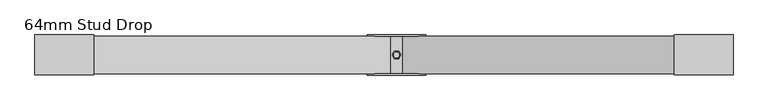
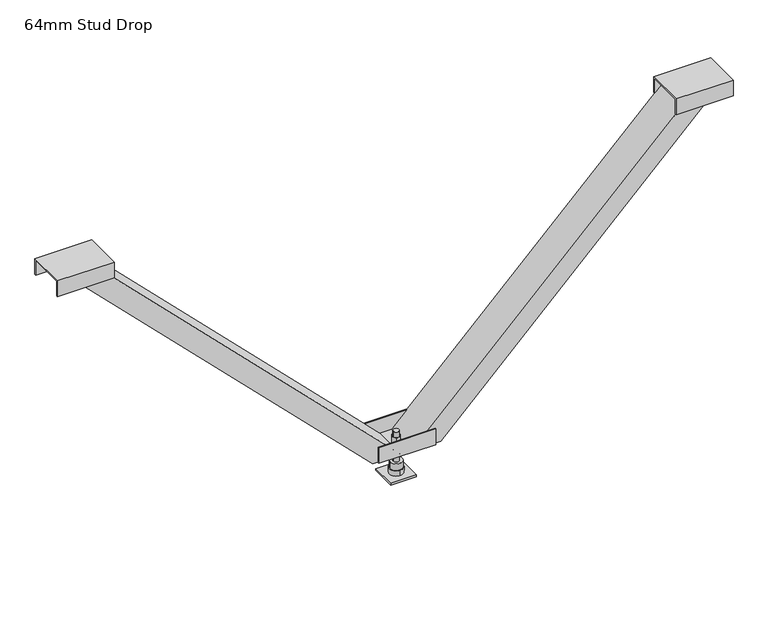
"""IFC4 building model written with IfcOpenShell, lengths in millimetres: beam geometry, Vertibrace U-Channel  Brace : 64mm Stud Drop."""

from ifc_helpers import new_model, si_unit, frame, origin, origin_with_axes, place, context, project, spatial, polyline, circle_curve, outline, extrude, faceted_brep, source, transform, mapped, element, save
from ifc_brep_helpers import plane_surface, cylinder_surface, advanced_brep


def beam_64mm_stud_drop_664ceee9(model_context):
    return source(origin(), model_context, "Body", "SolidModel", [
        extrude(outline(polyline([(34.0, 550.0), (34.0, 520.9584251), (32.0, 520.9584251), (32.0, 548.0), (-32.0, 548.0), (-32.0, 520.9584251), (-34.0, 520.9584251), (-34.0, 550.0), (34.0, 550.0)])), frame((471.3, 0.0, 0.0), z_axis=(1.0, 0.0, 0.0), x_axis=(0.0, 1.0, 0.0)), (0.0, 0.0, 1.0), 100.0),
        extrude(outline(polyline([(34.0, 592.5287582), (34.0, 563.4871833), (32.0, 563.4871833), (32.0, 590.5287582), (-32.0, 590.5287582), (-32.0, 563.4871833), (-34.0, 563.4871833), (-34.0, 592.5287582), (34.0, 592.5287582)])), frame((-613.8287582, 0.0, 0.0), z_axis=(1.0, 0.0, 0.0), x_axis=(0.0, 1.0, 0.0)), (0.0, 0.0, 1.0), 100.0),
        extrude(outline(polyline([(-34.0, 56.7), (-34.0, 85.7415749), (-32.0, 85.7415749), (-32.0, 58.7), (32.0, 58.7), (32.0, 85.7415749), (34.0, 85.7415749), (34.0, 56.7), (-34.0, 56.7)])), frame((-50.0, 0.0, 0.0), z_axis=(1.0, 0.0, 0.0), x_axis=(0.0, 1.0, 0.0)), (0.0, 0.0, 1.0), 100.0),
        extrude(outline(polyline([(22.5, 22.5), (22.5, -22.5), (-22.5, -22.5), (-22.5, 22.5), (22.5, 22.5)])), origin_with_axes(), (0.0, 0.0, 1.0), 3.0),
        advanced_brep(
        [(-5.0, 0.0, -10.0), (5.0, 0.0, -10.0), (-5.0, 0.0, 80.0), (5.0, 0.0, 80.0), (5.0, 0.0, 3.0), (-5.0, 0.0, 3.0), (-5.0, 0.0, 70.4), (5.0, 0.0, 70.4), (-5.0, 0.0, 25.0), (5.0, 0.0, 25.0), (5.0, 0.0, 50.0), (-5.0, 0.0, 50.0), (5.0, 0.0, 58.7), (-5.0, 0.0, 58.7), (-5.0, 0.0, 56.7), (5.0, 0.0, 56.7), (-10.5, 0.0, 25.0), (10.5, 0.0, 25.0), (-10.5, 0.0, 13.0), (10.5, 0.0, 13.0), (0.0, -12.0, 13.0), (0.0, 12.0, 13.0), (3.75, 6.4951905, 70.4), (-3.75, 6.4951905, 70.4), (-7.5, 0.0, 70.4), (-3.75, -6.4951905, 70.4), (3.75, -6.4951905, 70.4), (7.5, 0.0, 70.4), (3.75, 6.4951905, 58.7), (7.5, 0.0, 58.7), (3.75, -6.4951905, 58.7), (-3.75, -6.4951905, 58.7), (-7.5, 0.0, 58.7), (-3.75, 6.4951905, 58.7), (-10.9696551, 0.0, 56.7), (-5.4848276, -9.5, 56.7), (5.4848276, -9.5, 56.7), (10.9696551, 0.0, 56.7), (5.4848276, 9.5, 56.7), (-5.4848276, 9.5, 56.7), (-10.9696551, 0.0, 50.0), (-5.4848276, 9.5, 50.0), (5.4848276, 9.5, 50.0), (10.9696551, 0.0, 50.0), (5.4848276, -9.5, 50.0), (-5.4848276, -9.5, 50.0), (0.0, -12.0, 3.0), (0.0, 12.0, 3.0)],
        [
            (0, 1, circle_curve(frame((0.0, 0.0, -10.0), z_axis=(0.0, 0.0, -1.0), x_axis=(1.0, 0.0, 0.0)), 5.0)),
            (1, 0, circle_curve(frame((0.0, 0.0, -10.0), z_axis=(0.0, 0.0, -1.0), x_axis=(1.0, 0.0, 0.0)), 5.0)),
            (2, 3, circle_curve(frame((0.0, 0.0, 80.0), z_axis=(0.0, 0.0, 1.0), x_axis=(1.0, 0.0, 0.0)), 5.0)),
            (3, 2, circle_curve(frame((0.0, 0.0, 80.0), z_axis=(0.0, 0.0, 1.0), x_axis=(1.0, 0.0, 0.0)), 5.0)),
            (1, 4),
            (4, 5, circle_curve(frame((0.0, 0.0, 3.0), z_axis=(0.0, 0.0, -1.0), x_axis=(1.0, 0.0, 0.0)), 5.0)),
            (5, 0),
            (2, 6),
            (6, 7, circle_curve(frame((0.0, 0.0, 70.4), z_axis=(0.0, 0.0, 1.0), x_axis=(1.0, 0.0, 0.0)), 5.0)),
            (7, 3),
            (8, 9, circle_curve(frame((0.0, 0.0, 25.0), z_axis=(0.0, 0.0, 1.0), x_axis=(1.0, 0.0, 0.0)), 5.0)),
            (9, 10),
            (10, 11, circle_curve(frame((0.0, 0.0, 50.0), z_axis=(0.0, 0.0, -1.0), x_axis=(1.0, 0.0, 0.0)), 5.0)),
            (11, 8),
            (12, 13, circle_curve(frame((0.0, 0.0, 58.7), z_axis=(0.0, 0.0, -1.0), x_axis=(1.0, 0.0, 0.0)), 5.0)),
            (13, 14),
            (14, 15, circle_curve(frame((0.0, 0.0, 56.7), z_axis=(0.0, 0.0, 1.0), x_axis=(1.0, 0.0, 0.0)), 5.0)),
            (15, 12),
            (5, 4, circle_curve(frame((0.0, 0.0, 3.0), z_axis=(0.0, 0.0, -1.0), x_axis=(1.0, 0.0, 0.0)), 5.0)),
            (7, 6, circle_curve(frame((0.0, 0.0, 70.4), z_axis=(0.0, 0.0, 1.0), x_axis=(1.0, 0.0, 0.0)), 5.0)),
            (9, 8, circle_curve(frame((0.0, 0.0, 25.0), z_axis=(0.0, 0.0, 1.0), x_axis=(1.0, 0.0, 0.0)), 5.0)),
            (11, 10, circle_curve(frame((0.0, 0.0, 50.0), z_axis=(0.0, 0.0, -1.0), x_axis=(1.0, 0.0, 0.0)), 5.0)),
            (13, 12, circle_curve(frame((0.0, 0.0, 58.7), z_axis=(0.0, 0.0, -1.0), x_axis=(1.0, 0.0, 0.0)), 5.0)),
            (15, 14, circle_curve(frame((0.0, 0.0, 56.7), z_axis=(0.0, 0.0, 1.0), x_axis=(1.0, 0.0, 0.0)), 5.0)),
            (16, 17, circle_curve(frame((0.0, 0.0, 25.0), z_axis=(0.0, 0.0, 1.0), x_axis=(1.0, 0.0, 0.0)), 10.5)),
            (17, 16, circle_curve(frame((0.0, 0.0, 25.0), z_axis=(0.0, 0.0, 1.0), x_axis=(1.0, 0.0, 0.0)), 10.5)),
            (16, 18),
            (18, 19, circle_curve(frame((0.0, 0.0, 13.0), z_axis=(0.0, 0.0, 1.0), x_axis=(1.0, 0.0, 0.0)), 10.5)),
            (19, 17),
            (19, 18, circle_curve(frame((0.0, 0.0, 13.0), z_axis=(0.0, 0.0, 1.0), x_axis=(1.0, 0.0, 0.0)), 10.5)),
            (20, 21, circle_curve(frame((0.0, 0.0, 13.0), z_axis=(0.0, 0.0, 1.0), x_axis=(0.0, 1.0, 0.0)), 12.0)),
            (21, 20, circle_curve(frame((0.0, 0.0, 13.0), z_axis=(0.0, 0.0, 1.0), x_axis=(0.0, 1.0, 0.0)), 12.0)),
            (22, 23),
            (23, 24),
            (24, 25),
            (25, 26),
            (26, 27),
            (27, 22),
            (28, 29),
            (29, 30),
            (30, 31),
            (31, 32),
            (32, 33),
            (33, 28),
            (22, 28),
            (33, 23),
            (32, 24),
            (31, 25),
            (30, 26),
            (29, 27),
            (34, 35),
            (35, 36),
            (36, 37),
            (37, 38),
            (38, 39),
            (39, 34),
            (40, 41),
            (41, 42),
            (42, 43),
            (43, 44),
            (44, 45),
            (45, 40),
            (34, 40),
            (45, 35),
            (44, 36),
            (43, 37),
            (42, 38),
            (41, 39),
            (46, 47, circle_curve(frame((0.0, 0.0, 3.0), z_axis=(0.0, 0.0, -1.0), x_axis=(0.0, 1.0, 0.0)), 12.0)),
            (47, 46, circle_curve(frame((0.0, 0.0, 3.0), z_axis=(0.0, 0.0, -1.0), x_axis=(0.0, 1.0, 0.0)), 12.0)),
            (47, 21),
            (20, 46),
        ],
        [
            plane_surface(frame((5.0, 0.0, -10.0), z_axis=(0.0, 0.0, -1.0), x_axis=(0.0, -1.0, 0.0))),
            plane_surface(frame((5.0, 0.0, 80.0), z_axis=(0.0, 0.0, 1.0), x_axis=(0.0, 1.0, 0.0))),
            cylinder_surface(frame((0.0, 0.0, -10.0), z_axis=(0.0, 0.0, 1.0), x_axis=(1.0, 0.0, 0.0)), 5.0),
            plane_surface(frame((10.5, 0.0, 25.0), z_axis=(0.0, 0.0, 1.0), x_axis=(0.0, 1.0, 0.0))),
            cylinder_surface(frame((0.0, 0.0, 13.0), z_axis=(0.0, 0.0, 1.0), x_axis=(1.0, 0.0, 0.0)), 10.5),
            plane_surface(frame((0.0, 12.0, 13.0), z_axis=(0.0, 0.0, 1.0), x_axis=(-1.0, 0.0, 0.0))),
            plane_surface(frame((3.75, 6.4951905, 70.4), z_axis=(0.0, 0.0, 1.0), x_axis=(-1.0, 0.0, 0.0))),
            plane_surface(frame((3.75, 6.4951905, 58.7), z_axis=(0.0, 0.0, -1.0), x_axis=(1.0, 0.0, 0.0))),
            plane_surface(frame((3.75, 6.4951905, 70.4), z_axis=(0.0, 1.0, 0.0), x_axis=(0.0, 0.0, -1.0))),
            plane_surface(frame((-3.75, 6.4951905, 70.4), z_axis=(-0.8660254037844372, 0.5000000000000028, 0.0), x_axis=(0.0, 0.0, -1.0))),
            plane_surface(frame((-7.5, 0.0, 70.4), z_axis=(-0.8660254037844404, -0.499999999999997, 0.0), x_axis=(0.0, 0.0, -1.0))),
            plane_surface(frame((-3.75, -6.4951905, 70.4), z_axis=(0.0, -1.0, 0.0), x_axis=(0.0, 0.0, -1.0))),
            plane_surface(frame((3.75, -6.4951905, 70.4), z_axis=(0.8660254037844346, -0.5000000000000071, 0.0), x_axis=(0.0, 0.0, -1.0))),
            plane_surface(frame((7.5, 0.0, 70.4), z_axis=(0.8660254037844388, 0.4999999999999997, 0.0), x_axis=(0.0, 0.0, -1.0))),
            plane_surface(frame((-10.9696551, 0.0, 56.7), z_axis=(0.0, 0.0, 1.0), x_axis=(0.49999999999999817, -0.8660254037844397, 0.0))),
            plane_surface(frame((-10.9696551, 0.0, 50.0), z_axis=(0.0, 0.0, -1.0), x_axis=(-0.49999999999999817, 0.8660254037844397, 0.0))),
            plane_surface(frame((-10.9696551, 0.0, 56.7), z_axis=(-0.8660254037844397, -0.49999999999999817, 0.0), x_axis=(0.0, 0.0, -1.0))),
            plane_surface(frame((-5.4848276, -9.5, 56.7), z_axis=(0.0, -1.0, 0.0), x_axis=(0.0, 0.0, -1.0))),
            plane_surface(frame((5.4848276, -9.5, 56.7), z_axis=(0.8660254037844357, -0.5000000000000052, 0.0), x_axis=(0.0, 0.0, -1.0))),
            plane_surface(frame((10.9696551, 0.0, 56.7), z_axis=(0.8660254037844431, 0.49999999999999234, 0.0), x_axis=(0.0, 0.0, -1.0))),
            plane_surface(frame((5.4848276, 9.5, 56.7), z_axis=(0.0, 1.0, 0.0), x_axis=(0.0, 0.0, -1.0))),
            plane_surface(frame((-5.4848276, 9.5, 56.7), z_axis=(-0.866025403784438, 0.5000000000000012, 0.0), x_axis=(0.0, 0.0, -1.0))),
            plane_surface(frame((0.0, 12.0, 3.0), z_axis=(0.0, 0.0, -1.0), x_axis=(1.0, 0.0, 0.0))),
            cylinder_surface(frame((0.0, 0.0, 3.0), z_axis=(0.0, 0.0, 1.0), x_axis=(0.0, 1.0, 0.0)), 12.0),
        ],
        [
            (0, [[1, 2]]),
            (1, [[3, 4]]),
            (2, [[-2, 5, 6, 7]]),
            (2, [[-3, 8, 9, 10]]),
            (2, [[11, 12, 13, 14]]),
            (2, [[15, 16, 17, 18]]),
            (2, [[-1, -7, 19, -5]]),
            (2, [[-4, -10, 20, -8]]),
            (2, [[21, -14, 22, -12]]),
            (2, [[23, -18, 24, -16]]),
            (3, [[25, 26], [-11, -21]]),
            (4, [[-25, 27, 28, 29]]),
            (4, [[-26, -29, 30, -27]]),
            (5, [[31, 32], [-28, -30]]),
            (6, [[33, 34, 35, 36, 37, 38], [-9, -20]]),
            (7, [[39, 40, 41, 42, 43, 44], [-15, -23]]),
            (8, [[-33, 45, -44, 46]]),
            (9, [[-34, -46, -43, 47]]),
            (10, [[-35, -47, -42, 48]]),
            (11, [[-36, -48, -41, 49]]),
            (12, [[-37, -49, -40, 50]]),
            (13, [[-38, -50, -39, -45]]),
            (14, [[51, 52, 53, 54, 55, 56], [-17, -24]]),
            (15, [[57, 58, 59, 60, 61, 62], [-13, -22]]),
            (16, [[-51, 63, -62, 64]]),
            (17, [[-52, -64, -61, 65]]),
            (18, [[-53, -65, -60, 66]]),
            (19, [[-54, -66, -59, 67]]),
            (20, [[-55, -67, -58, 68]]),
            (21, [[-56, -68, -57, -63]]),
            (22, [[69, 70], [-6, -19]]),
            (23, [[-70, 71, -31, 72]]),
            (23, [[-69, -72, -32, -71]]),
        ],
    ),
        faceted_brep([(10.0, 32.0, 58.7), (59.4974747, 32.0, 58.7), (59.4974747, 22.0, 58.7), (56.6690476, 22.0, 58.7), (56.6690476, 30.0, 58.7), (12.8284271, 30.0, 58.7), (12.8284271, -30.0, 58.7), (56.6690476, -30.0, 58.7), (56.6690476, -22.0, 58.7), (59.4974747, -22.0, 58.7), (59.4974747, -32.0, 58.7), (10.0, -32.0, 58.7), (499.3, 32.0, 548.0), (548.7974747, 32.0, 548.0), (548.7974747, 22.0, 548.0), (545.9690476, 22.0, 548.0), (545.9690476, 30.0, 548.0), (502.1284271, 30.0, 548.0), (502.1284271, -30.0, 548.0), (545.9690476, -30.0, 548.0), (545.9690476, -22.0, 548.0), (548.7974747, -22.0, 548.0), (548.7974747, -32.0, 548.0), (499.3, -32.0, 548.0)], [[[0, 1, 2, 3, 4, 5, 6, 7, 8, 9, 10, 11]], [[1, 0, 12, 13]], [[2, 1, 13, 14]], [[3, 2, 14, 15]], [[4, 3, 15, 16]], [[5, 4, 16, 17]], [[6, 5, 17, 18]], [[7, 6, 18, 19]], [[8, 7, 19, 20]], [[9, 8, 20, 21]], [[10, 9, 21, 22]], [[11, 10, 22, 23]], [[0, 11, 23, 12]], [[13, 12, 23, 22, 21, 20, 19, 18, 17, 16, 15, 14]]]),
        faceted_brep([(-59.4974747, -32.0, 58.7), (-10.0, -32.0, 58.7), (-541.8287582, -32.0, 590.5287582), (-591.3262329, -32.0, 590.5287582), (-59.4974747, -22.0, 58.7), (-591.3262329, -22.0, 590.5287582), (-10.0, 32.0, 58.7), (-59.4974747, 32.0, 58.7), (-591.3262329, 32.0, 590.5287582), (-541.8287582, 32.0, 590.5287582), (-56.6690476, -22.0, 58.7), (-56.6690476, -30.0, 58.7), (-12.8284271, -30.0, 58.7), (-12.8284271, 30.0, 58.7), (-56.6690476, 30.0, 58.7), (-56.6690476, 22.0, 58.7), (-59.4974747, 22.0, 58.7), (-588.4978057, -22.0, 590.5287582), (-588.4978057, -30.0, 590.5287582), (-544.6571853, -30.0, 590.5287582), (-544.6571853, 30.0, 590.5287582), (-588.4978057, 30.0, 590.5287582), (-588.4978057, 22.0, 590.5287582), (-591.3262329, 22.0, 590.5287582)], [[[0, 1, 2, 3]], [[4, 0, 3, 5]], [[6, 7, 8, 9]], [[1, 6, 9, 2]], [[1, 0, 4, 10, 11, 12, 13, 14, 15, 16, 7, 6]], [[10, 4, 5, 17]], [[11, 10, 17, 18]], [[12, 11, 18, 19]], [[13, 12, 19, 20]], [[14, 13, 20, 21]], [[15, 14, 21, 22]], [[16, 15, 22, 23]], [[7, 16, 23, 8]], [[3, 2, 9, 8, 23, 22, 21, 20, 19, 18, 17, 5]]]),
    ])


if __name__ == "__main__":
    model = new_model("IFC4")
    model_context = context("Model", 3, world=origin())
    ifc_project = project(units=[si_unit("LENGTHUNIT", "METRE", prefix="MILLI")], contexts=[model_context])
    site = spatial("IfcSite", under=ifc_project)
    building = spatial("IfcBuilding", under=site)
    placement = place(None, origin())
    beam_64mm_stud_drop_shape = beam_64mm_stud_drop_664ceee9(model_context)
    element("IfcBeam", 1, ObjectType="Vertibrace U-Channel  Brace : 64mm Stud Drop", at=placement, inside=building, context=model_context, shape_type="MappedRepresentation", body=[
        mapped(beam_64mm_stud_drop_shape, transform((0.0, 0.0, 0.0), x_axis=(1.0, 0.0, 0.0), y_axis=(0.0, 1.0, 0.0), z_axis=(0.0, 0.0, 1.0))),
    ])
    save(model, "model.ifc")
